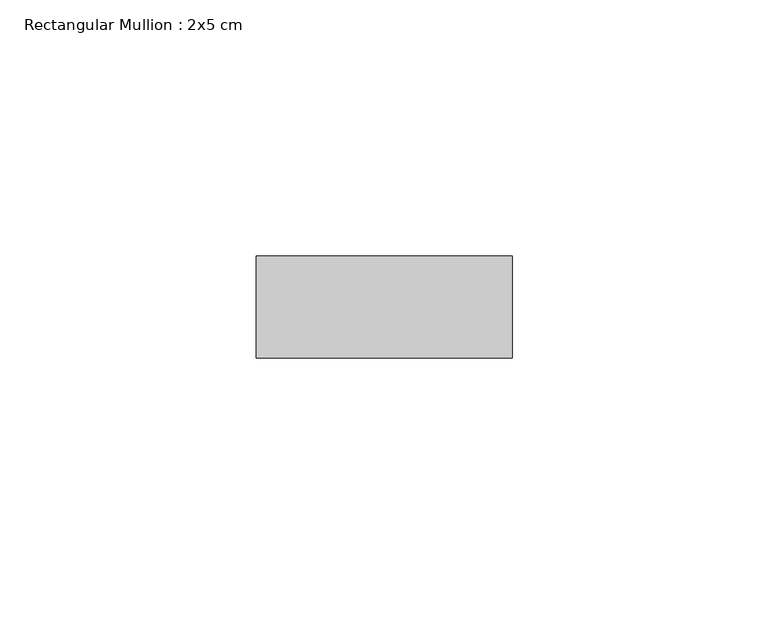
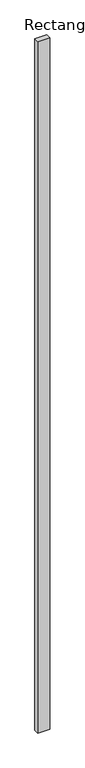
"""IFC4 building model written with IfcOpenShell, lengths in millimetres: member geometry, Rectangular Mullion : 2x5 cm."""

from ifc_helpers import new_model, si_unit, frame, origin, place, context, project, spatial, polyline, outline, extrude, source, transform, mapped, element, save


def rectangular_mullion_2x5_cm_f30f7e46(model_context):
    return source(origin(), model_context, "Body", "SweptSolid", [
        extrude(outline(polyline([(50.0, 20.0), (50.0, 0.0), (0.0, 0.0), (0.0, 20.0), (50.0, 20.0)])), frame((0.0, 0.0, -3042.4941439), z_axis=(0.0, 0.0, 1.0), x_axis=(1.0, 0.0, 0.0)), (0.0, 0.0, 1.0), 3042.4941439),
    ])


if __name__ == "__main__":
    model = new_model("IFC4")
    model_context = context("Model", 3, world=origin())
    ifc_project = project(units=[si_unit("LENGTHUNIT", "METRE", prefix="MILLI")], contexts=[model_context])
    site = spatial("IfcSite", under=ifc_project)
    building = spatial("IfcBuilding", under=site)
    placement = place(None, origin())
    rectangular_mullion_2x5_cm_shape = rectangular_mullion_2x5_cm_f30f7e46(model_context)
    element("IfcMember", 1, ObjectType="Rectangular Mullion : 2x5 cm", at=placement, inside=building, context=model_context, shape_type="MappedRepresentation", body=[
        mapped(rectangular_mullion_2x5_cm_shape, transform((0.0, 0.0, 0.0), x_axis=(1.0, 0.0, 0.0), y_axis=(0.0, 1.0, 0.0), z_axis=(0.0, 0.0, 1.0))),
    ])
    save(model, "model.ifc")
